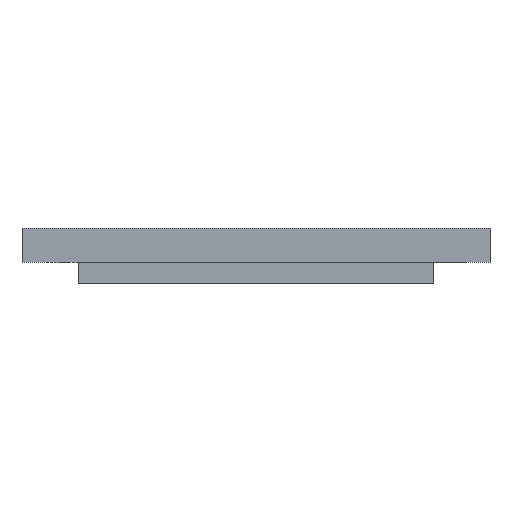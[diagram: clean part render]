
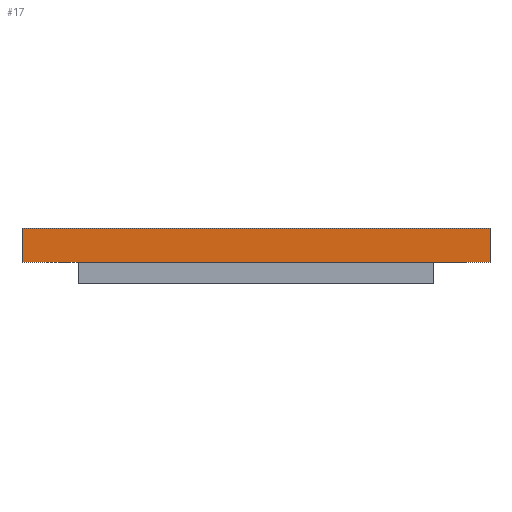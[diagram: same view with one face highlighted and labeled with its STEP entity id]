
A CAD part, left-side view. The second image highlights one B-rep face of the part: STEP entity #17.
In plain terms, the highlighted planar face has unit normal (-1, 0, 0).
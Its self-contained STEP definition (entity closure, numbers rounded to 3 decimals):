
#17 = ADVANCED_FACE('',(#18),#32,.F.);
#18 = FACE_BOUND('',#19,.F.);
#19 = EDGE_LOOP('',(#20,#55,#83,#111));
#20 = ORIENTED_EDGE('',*,*,#21,.F.);
#21 = EDGE_CURVE('',#22,#24,#26,.T.);
#22 = VERTEX_POINT('',#23);
#23 = CARTESIAN_POINT('',(0.,0.,
    2.));
#24 = VERTEX_POINT('',#25);
#25 = CARTESIAN_POINT('',(0.,0.,
    5.2));
#26 = SURFACE_CURVE('',#27,(#31,#43),.PCURVE_S1.);
#27 = LINE('',#28,#29);
#28 = CARTESIAN_POINT('',(0.,0.,
    2.));
#29 = VECTOR('',#30,1.);
#30 = DIRECTION('',(0.,0.,1.));
#31 = PCURVE('',#32,#37);
#32 = PLANE('',#33);
#33 = AXIS2_PLACEMENT_3D('',#34,#35,#36);
#34 = CARTESIAN_POINT('',(0.,0.,
    2.));
#35 = DIRECTION('',(1.,0.,-0.));
#36 = DIRECTION('',(0.,0.,1.));
#37 = DEFINITIONAL_REPRESENTATION('',(#38),#42);
#38 = LINE('',#39,#40);
#39 = CARTESIAN_POINT('',(0.,0.));
#40 = VECTOR('',#41,1.);
#41 = DIRECTION('',(1.,0.));
#42 = ( GEOMETRIC_REPRESENTATION_CONTEXT(2) 
PARAMETRIC_REPRESENTATION_CONTEXT() REPRESENTATION_CONTEXT('2D SPACE',''
  ) );
#43 = PCURVE('',#44,#49);
#44 = PLANE('',#45);
#45 = AXIS2_PLACEMENT_3D('',#46,#47,#48);
#46 = CARTESIAN_POINT('',(0.,0.,
    2.));
#47 = DIRECTION('',(-0.,1.,0.));
#48 = DIRECTION('',(0.,0.,1.));
#49 = DEFINITIONAL_REPRESENTATION('',(#50),#54);
#50 = LINE('',#51,#52);
#51 = CARTESIAN_POINT('',(0.,0.));
#52 = VECTOR('',#53,1.);
#53 = DIRECTION('',(1.,0.));
#54 = ( GEOMETRIC_REPRESENTATION_CONTEXT(2) 
PARAMETRIC_REPRESENTATION_CONTEXT() REPRESENTATION_CONTEXT('2D SPACE',''
  ) );
#55 = ORIENTED_EDGE('',*,*,#56,.T.);
#56 = EDGE_CURVE('',#22,#57,#59,.T.);
#57 = VERTEX_POINT('',#58);
#58 = CARTESIAN_POINT('',(0.,44.,2.));
#59 = SURFACE_CURVE('',#60,(#64,#71),.PCURVE_S1.);
#60 = LINE('',#61,#62);
#61 = CARTESIAN_POINT('',(0.,0.,
    2.));
#62 = VECTOR('',#63,1.);
#63 = DIRECTION('',(-0.,1.,0.));
#64 = PCURVE('',#32,#65);
#65 = DEFINITIONAL_REPRESENTATION('',(#66),#70);
#66 = LINE('',#67,#68);
#67 = CARTESIAN_POINT('',(0.,0.));
#68 = VECTOR('',#69,1.);
#69 = DIRECTION('',(0.,-1.));
#70 = ( GEOMETRIC_REPRESENTATION_CONTEXT(2) 
PARAMETRIC_REPRESENTATION_CONTEXT() REPRESENTATION_CONTEXT('2D SPACE',''
  ) );
#71 = PCURVE('',#72,#77);
#72 = PLANE('',#73);
#73 = AXIS2_PLACEMENT_3D('',#74,#75,#76);
#74 = CARTESIAN_POINT('',(0.,0.,
    2.));
#75 = DIRECTION('',(0.,0.,1.));
#76 = DIRECTION('',(1.,0.,-0.));
#77 = DEFINITIONAL_REPRESENTATION('',(#78),#82);
#78 = LINE('',#79,#80);
#79 = CARTESIAN_POINT('',(0.,0.));
#80 = VECTOR('',#81,1.);
#81 = DIRECTION('',(0.,1.));
#82 = ( GEOMETRIC_REPRESENTATION_CONTEXT(2) 
PARAMETRIC_REPRESENTATION_CONTEXT() REPRESENTATION_CONTEXT('2D SPACE',''
  ) );
#83 = ORIENTED_EDGE('',*,*,#84,.T.);
#84 = EDGE_CURVE('',#57,#85,#87,.T.);
#85 = VERTEX_POINT('',#86);
#86 = CARTESIAN_POINT('',(0.,44.,5.2));
#87 = SURFACE_CURVE('',#88,(#92,#99),.PCURVE_S1.);
#88 = LINE('',#89,#90);
#89 = CARTESIAN_POINT('',(0.,44.,2.));
#90 = VECTOR('',#91,1.);
#91 = DIRECTION('',(0.,0.,1.));
#92 = PCURVE('',#32,#93);
#93 = DEFINITIONAL_REPRESENTATION('',(#94),#98);
#94 = LINE('',#95,#96);
#95 = CARTESIAN_POINT('',(0.,-44.));
#96 = VECTOR('',#97,1.);
#97 = DIRECTION('',(1.,0.));
#98 = ( GEOMETRIC_REPRESENTATION_CONTEXT(2) 
PARAMETRIC_REPRESENTATION_CONTEXT() REPRESENTATION_CONTEXT('2D SPACE',''
  ) );
#99 = PCURVE('',#100,#105);
#100 = PLANE('',#101);
#101 = AXIS2_PLACEMENT_3D('',#102,#103,#104);
#102 = CARTESIAN_POINT('',(0.,44.,2.));
#103 = DIRECTION('',(-0.,1.,0.));
#104 = DIRECTION('',(0.,0.,1.));
#105 = DEFINITIONAL_REPRESENTATION('',(#106),#110);
#106 = LINE('',#107,#108);
#107 = CARTESIAN_POINT('',(0.,0.));
#108 = VECTOR('',#109,1.);
#109 = DIRECTION('',(1.,0.));
#110 = ( GEOMETRIC_REPRESENTATION_CONTEXT(2) 
PARAMETRIC_REPRESENTATION_CONTEXT() REPRESENTATION_CONTEXT('2D SPACE',''
  ) );
#111 = ORIENTED_EDGE('',*,*,#112,.F.);
#112 = EDGE_CURVE('',#24,#85,#113,.T.);
#113 = SURFACE_CURVE('',#114,(#118,#125),.PCURVE_S1.);
#114 = LINE('',#115,#116);
#115 = CARTESIAN_POINT('',(0.,0.,
    5.2));
#116 = VECTOR('',#117,1.);
#117 = DIRECTION('',(-0.,1.,0.));
#118 = PCURVE('',#32,#119);
#119 = DEFINITIONAL_REPRESENTATION('',(#120),#124);
#120 = LINE('',#121,#122);
#121 = CARTESIAN_POINT('',(3.2,0.));
#122 = VECTOR('',#123,1.);
#123 = DIRECTION('',(0.,-1.));
#124 = ( GEOMETRIC_REPRESENTATION_CONTEXT(2) 
PARAMETRIC_REPRESENTATION_CONTEXT() REPRESENTATION_CONTEXT('2D SPACE',''
  ) );
#125 = PCURVE('',#126,#131);
#126 = PLANE('',#127);
#127 = AXIS2_PLACEMENT_3D('',#128,#129,#130);
#128 = CARTESIAN_POINT('',(0.,0.,
    5.2));
#129 = DIRECTION('',(0.,0.,1.));
#130 = DIRECTION('',(1.,0.,-0.));
#131 = DEFINITIONAL_REPRESENTATION('',(#132),#136);
#132 = LINE('',#133,#134);
#133 = CARTESIAN_POINT('',(0.,0.));
#134 = VECTOR('',#135,1.);
#135 = DIRECTION('',(0.,1.));
#136 = ( GEOMETRIC_REPRESENTATION_CONTEXT(2) 
PARAMETRIC_REPRESENTATION_CONTEXT() REPRESENTATION_CONTEXT('2D SPACE',''
  ) );
